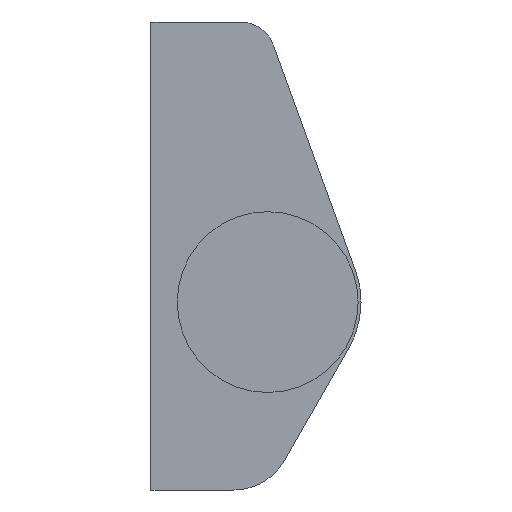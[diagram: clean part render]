
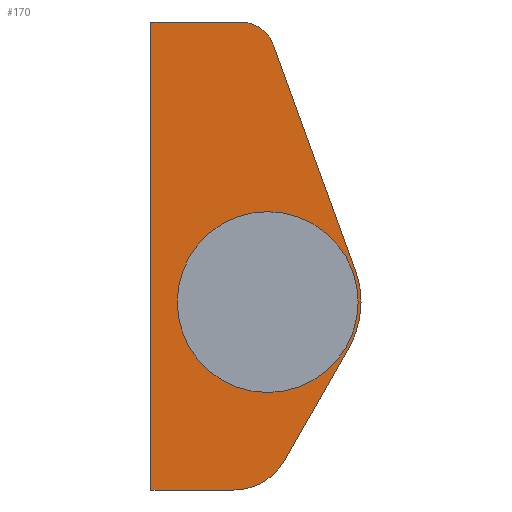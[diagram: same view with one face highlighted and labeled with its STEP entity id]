
A CAD part, front view. The second image highlights one B-rep face of the part: STEP entity #170.
In plain terms, the highlighted planar face has unit normal (0, -1, 0).
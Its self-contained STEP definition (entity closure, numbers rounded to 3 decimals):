
#9 = FACE_BOUND ( 'NONE', #193, .T. ) ;
#13 = FACE_OUTER_BOUND ( 'NONE', #188, .T. ) ;
#25 = CIRCLE ( 'NONE', #108, 6. ) ;
#28 = VECTOR ( 'NONE', #405, 1000. ) ;
#29 = LINE ( 'NONE', #404, #28 ) ;
#34 = CIRCLE ( 'NONE', #97, 8. ) ;
#38 = CIRCLE ( 'NONE', #77, 3. ) ;
#40 = CIRCLE ( 'NONE', #98, 5. ) ;
#41 = VECTOR ( 'NONE', #390, 1000. ) ;
#42 = CIRCLE ( 'NONE', #81, 6. ) ;
#50 = LINE ( 'NONE', #389, #41 ) ;
#68 = EDGE_CURVE ( 'NONE', #348, #347, #206, .T. ) ;
#71 = EDGE_CURVE ( 'NONE', #361, #350, #161, .T. ) ;
#77 = AXIS2_PLACEMENT_3D ( 'NONE', #378, #387, #388 ) ;
#81 = AXIS2_PLACEMENT_3D ( 'NONE', #372, #379, #380 ) ;
#83 = EDGE_CURVE ( 'NONE', #351, #358, #158, .T. ) ;
#87 = EDGE_CURVE ( 'NONE', #347, #353, #148, .T. ) ;
#93 = AXIS2_PLACEMENT_3D ( 'NONE', #435, #437, #438 ) ;
#97 = AXIS2_PLACEMENT_3D ( 'NONE', #386, #393, #394 ) ;
#98 = AXIS2_PLACEMENT_3D ( 'NONE', #375, #384, #385 ) ;
#108 = AXIS2_PLACEMENT_3D ( 'NONE', #395, #407, #408 ) ;
#114 = EDGE_CURVE ( 'NONE', #355, #354, #42, .T. ) ;
#116 = EDGE_CURVE ( 'NONE', #352, #351, #40, .T. ) ;
#119 = EDGE_CURVE ( 'NONE', #349, #348, #38, .T. ) ;
#120 = EDGE_CURVE ( 'NONE', #353, #352, #50, .T. ) ;
#122 = EDGE_CURVE ( 'NONE', #358, #361, #34, .T. ) ;
#129 = EDGE_CURVE ( 'NONE', #350, #349, #29, .T. ) ;
#131 = EDGE_CURVE ( 'NONE', #354, #355, #25, .T. ) ;
#142 = AXIS2_PLACEMENT_3D ( 'NONE', #327, #326, #325 ) ;
#148 = LINE ( 'NONE', #301, #160 ) ;
#158 = LINE ( 'NONE', #294, #521 ) ;
#160 = VECTOR ( 'NONE', #302, 1000. ) ;
#161 = CIRCLE ( 'NONE', #142, 8. ) ;
#170 = ADVANCED_FACE ( 'NONE', ( #13, #9 ), #436, .F. ) ;
#188 = EDGE_LOOP ( 'NONE', ( #278, #267, #269, #268, #262, #263, #264, #259, #283 ) ) ;
#193 = EDGE_LOOP ( 'NONE', ( #282, #271 ) ) ;
#206 = LINE ( 'NONE', #332, #274 ) ;
#259 = ORIENTED_EDGE ( 'NONE', *, *, #68, .T. ) ;
#262 = ORIENTED_EDGE ( 'NONE', *, *, #71, .T. ) ;
#263 = ORIENTED_EDGE ( 'NONE', *, *, #129, .T. ) ;
#264 = ORIENTED_EDGE ( 'NONE', *, *, #119, .T. ) ;
#267 = ORIENTED_EDGE ( 'NONE', *, *, #116, .T. ) ;
#268 = ORIENTED_EDGE ( 'NONE', *, *, #122, .T. ) ;
#269 = ORIENTED_EDGE ( 'NONE', *, *, #83, .T. ) ;
#271 = ORIENTED_EDGE ( 'NONE', *, *, #114, .F. ) ;
#274 = VECTOR ( 'NONE', #331, 1000. ) ;
#278 = ORIENTED_EDGE ( 'NONE', *, *, #120, .T. ) ;
#282 = ORIENTED_EDGE ( 'NONE', *, *, #131, .F. ) ;
#283 = ORIENTED_EDGE ( 'NONE', *, *, #87, .T. ) ;
#294 = CARTESIAN_POINT ( 'NONE',  ( 6.942, 414., -3.975 ) ) ;
#298 = DIRECTION ( 'NONE',  ( 0.497, 0., 0.868 ) ) ;
#301 = CARTESIAN_POINT ( 'NONE',  ( -10., 414., -16.1 ) ) ;
#302 = DIRECTION ( 'NONE',  ( 0., 0., -1. ) ) ;
#325 = DIRECTION ( 'NONE',  ( -1., 0., 0. ) ) ;
#326 = DIRECTION ( 'NONE',  ( 0., -1., 0. ) ) ;
#327 = CARTESIAN_POINT ( 'NONE',  ( 0., 414., 0. ) ) ;
#331 = DIRECTION ( 'NONE',  ( -1., 0., 0. ) ) ;
#332 = CARTESIAN_POINT ( 'NONE',  ( -10., 414., 24. ) ) ;
#347 = VERTEX_POINT ( 'NONE', #472 ) ;
#348 = VERTEX_POINT ( 'NONE', #485 ) ;
#349 = VERTEX_POINT ( 'NONE', #486 ) ;
#350 = VERTEX_POINT ( 'NONE', #487 ) ;
#351 = VERTEX_POINT ( 'NONE', #488 ) ;
#352 = VERTEX_POINT ( 'NONE', #489 ) ;
#353 = VERTEX_POINT ( 'NONE', #490 ) ;
#354 = VERTEX_POINT ( 'NONE', #491 ) ;
#355 = VERTEX_POINT ( 'NONE', #492 ) ;
#358 = VERTEX_POINT ( 'NONE', #495 ) ;
#361 = VERTEX_POINT ( 'NONE', #498 ) ;
#372 = CARTESIAN_POINT ( 'NONE',  ( 0., 414., 0. ) ) ;
#375 = CARTESIAN_POINT ( 'NONE',  ( -2.899, 414., -11.1 ) ) ;
#378 = CARTESIAN_POINT ( 'NONE',  ( -2.322, 414., 21. ) ) ;
#379 = DIRECTION ( 'NONE',  ( 0., -1., 0. ) ) ;
#380 = DIRECTION ( 'NONE',  ( -1., 0., 0. ) ) ;
#384 = DIRECTION ( 'NONE',  ( 0., -1., 0. ) ) ;
#385 = DIRECTION ( 'NONE',  ( -1., 0., 0. ) ) ;
#386 = CARTESIAN_POINT ( 'NONE',  ( 0., 414., 0. ) ) ;
#387 = DIRECTION ( 'NONE',  ( 0., -1., 0. ) ) ;
#388 = DIRECTION ( 'NONE',  ( -1., 0., 0. ) ) ;
#389 = CARTESIAN_POINT ( 'NONE',  ( -2.899, 414., -16.1 ) ) ;
#390 = DIRECTION ( 'NONE',  ( 1., 0., 0. ) ) ;
#393 = DIRECTION ( 'NONE',  ( 0., -1., 0. ) ) ;
#394 = DIRECTION ( 'NONE',  ( -1., 0., 0. ) ) ;
#395 = CARTESIAN_POINT ( 'NONE',  ( 0., 414., 0. ) ) ;
#404 = CARTESIAN_POINT ( 'NONE',  ( 0.497, 414., 22.026 ) ) ;
#405 = DIRECTION ( 'NONE',  ( -0.342, 0., 0.94 ) ) ;
#407 = DIRECTION ( 'NONE',  ( 0., -1., 0. ) ) ;
#408 = DIRECTION ( 'NONE',  ( -1., 0., 0. ) ) ;
#435 = CARTESIAN_POINT ( 'NONE',  ( -2.322, 414., 21. ) ) ;
#436 = PLANE ( 'NONE',  #93 ) ;
#437 = DIRECTION ( 'NONE',  ( 0., 1., 0. ) ) ;
#438 = DIRECTION ( 'NONE',  ( -1., 0., 0. ) ) ;
#472 = CARTESIAN_POINT ( 'NONE',  ( -10., 414., 24. ) ) ;
#485 = CARTESIAN_POINT ( 'NONE',  ( -2.322, 414., 24. ) ) ;
#486 = CARTESIAN_POINT ( 'NONE',  ( 0.497, 414., 22.026 ) ) ;
#487 = CARTESIAN_POINT ( 'NONE',  ( 7.518, 414., 2.736 ) ) ;
#488 = CARTESIAN_POINT ( 'NONE',  ( 1.44, 414., -13.584 ) ) ;
#489 = CARTESIAN_POINT ( 'NONE',  ( -2.899, 414., -16.1 ) ) ;
#490 = CARTESIAN_POINT ( 'NONE',  ( -10., 414., -16.1 ) ) ;
#491 = CARTESIAN_POINT ( 'NONE',  ( -6., 414., 0. ) ) ;
#492 = CARTESIAN_POINT ( 'NONE',  ( 6., 414., 0. ) ) ;
#495 = CARTESIAN_POINT ( 'NONE',  ( 6.942, 414., -3.975 ) ) ;
#498 = CARTESIAN_POINT ( 'NONE',  ( 8., 414., 0. ) ) ;
#521 = VECTOR ( 'NONE', #298, 1000. ) ;
